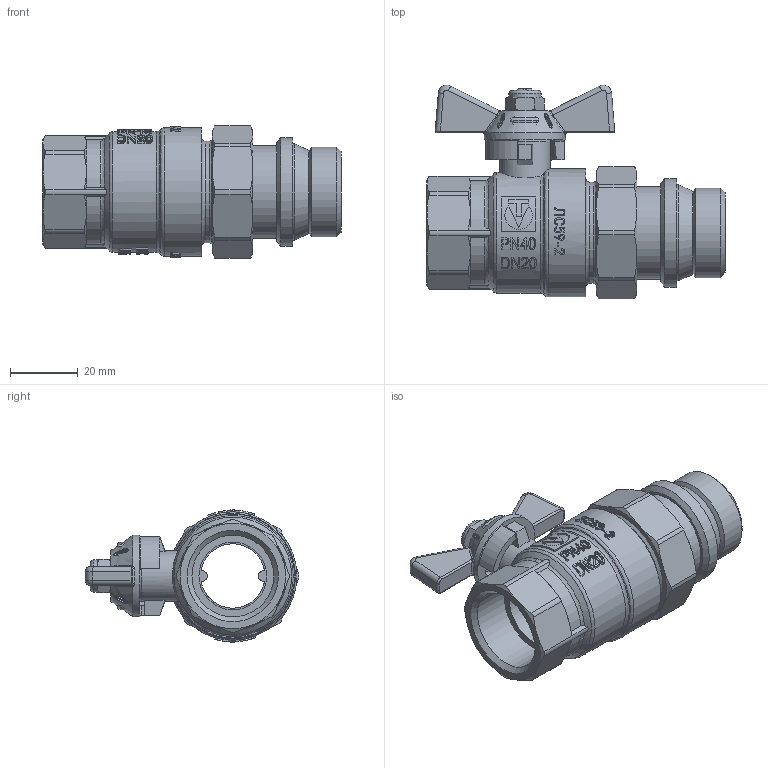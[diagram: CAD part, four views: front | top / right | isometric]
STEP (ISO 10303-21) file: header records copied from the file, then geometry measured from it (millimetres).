
FILE_DESCRIPTION(('STEP AP203'), '1');
FILE_NAME('VT.227S.NRW.05', '', ('UNSPECIFIED'), ('UNSPECIFIED'), 'C3D Converter', 'C3D Toolkit', '');
FILE_SCHEMA(('CONFIG_CONTROL_DESIGN'));
Length unit declared in the file: millimetre
Products named in the file (1): ВР.491816.022.000 СБ
Bounding box: 87.94 x 63.08 x 39 mm (x, y, z)
Volume: 53737.4 mm3; surface area: 22605.3 mm2
Topology: 1 solids, 1 shells, 1927 faces, 5448 edges, 3583 vertices
Faces by surface type: plane 1493, extrusion 179, cylinder 123, cone 82, bspline 28, torus 22
Full cylindrical faces by diameter (mm): 6 x1, 8 x1, 9.5 x1, 10.5 x1, 12 x1, 15 x1, 19 x1, 20 x1, 24 x1, 24.118 x1, 26.441 x1, 27.3 x1, 27.5 x1, 28.4 x1, 29 x1, 29.9 x1, 32 x1, 35.6 x1, 37.8 x1
Entity records: 70130 total; most frequent: CARTESIAN_POINT 28052, ORIENTED_EDGE 10742, DIRECTION 6606, EDGE_CURVE 5371, VERTEX_POINT 3568, VECTOR 2238, AXIS2_PLACEMENT_3D 2184, LINE 2059
